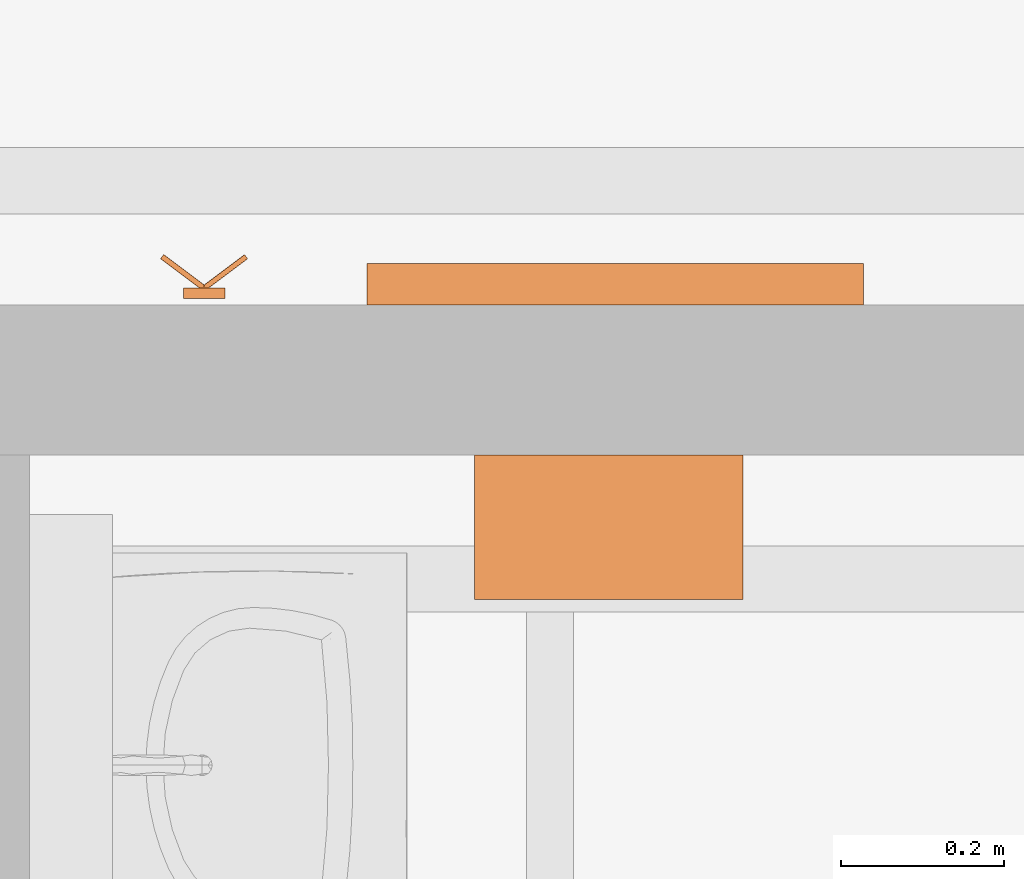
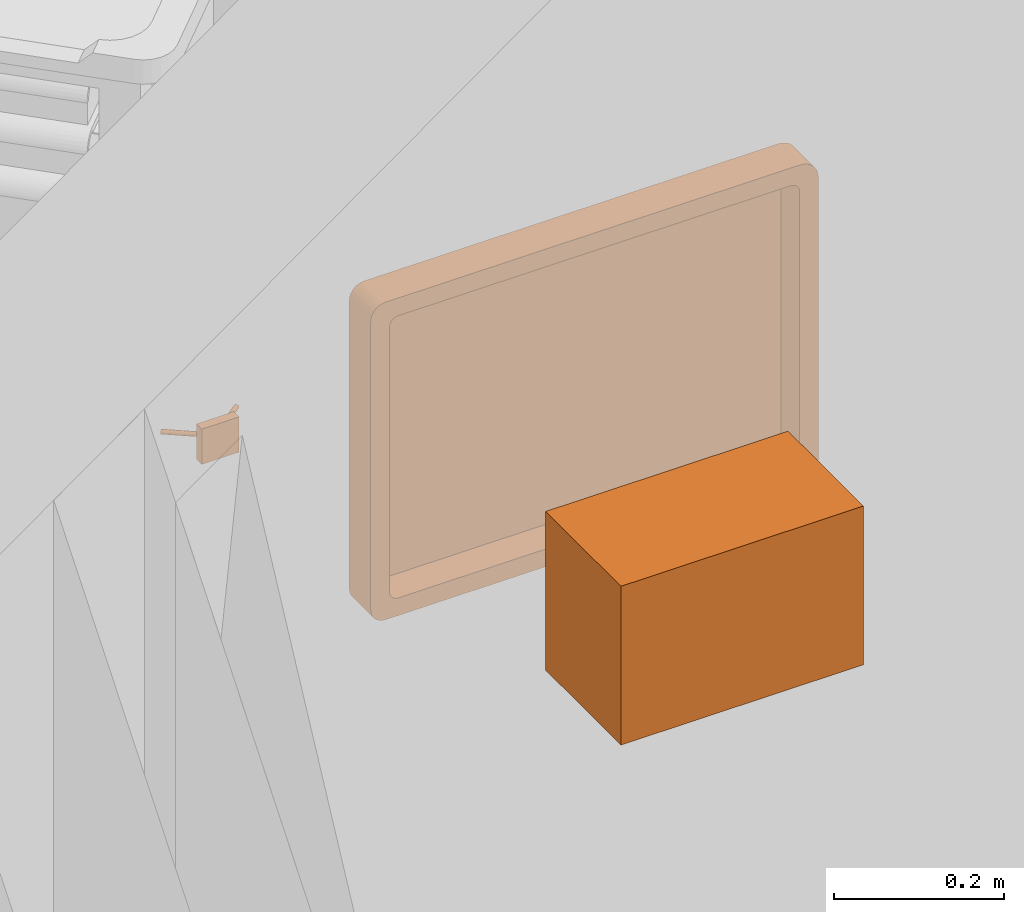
# One storey, part 72 of 142: 3 proxies.
"""IFC2X3 building model written with IfcOpenShell, lengths in feet."""

from ifc_helpers import new_model, entity, si_unit, converted_unit, derived_unit, direction, frame, frame_2d, origin, origin_2d_with_axis, place, context, subcontext, project, spatial, polyline, circle_curve, parameter, trimmed, segment, composite_curve, rectangle, circle, outline, extrude, source, transform, mapped, type_object, type_shapes, element, save


model = new_model("IFC2X3")

# Units and contexts
model_context = context("Model", 3, precision=0.0001, world=origin(), true_north=direction((6.12303176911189e-17, 1.0)))
body_context = subcontext(model_context, "Body", "Model", "MODEL_VIEW")
ifc_project = project(units=[converted_unit("LENGTHUNIT", "FOOT", entity("IfcRatioMeasure", 0.3048), si_unit("LENGTHUNIT", "METRE"), dimensions=[1, 0, 0, 0, 0, 0, 0]), converted_unit("AREAUNIT", "SQUARE FOOT", entity("IfcRatioMeasure", 0.09290304), si_unit("AREAUNIT", "SQUARE_METRE"), dimensions=[2, 0, 0, 0, 0, 0, 0]), converted_unit("VOLUMEUNIT", "CUBIC FOOT", entity("IfcRatioMeasure", 0.028316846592), si_unit("VOLUMEUNIT", "CUBIC_METRE"), dimensions=[3, 0, 0, 0, 0, 0, 0]), converted_unit("PLANEANGLEUNIT", "DEGREE", entity("IfcRatioMeasure", 0.0174532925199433), si_unit("PLANEANGLEUNIT", "RADIAN"), dimensions=[0, 0, 0, 0, 0, 0, 0]), si_unit("MASSUNIT", "GRAM", prefix="KILO"), derived_unit("MASSDENSITYUNIT", [(si_unit("MASSUNIT", "GRAM", prefix="KILO"), 1), (si_unit("LENGTHUNIT", "METRE"), -3)]), si_unit("TIMEUNIT", "SECOND"), si_unit("FREQUENCYUNIT", "HERTZ"), si_unit("THERMODYNAMICTEMPERATUREUNIT", "DEGREE_CELSIUS"), derived_unit("THERMALTRANSMITTANCEUNIT", [(si_unit("MASSUNIT", "GRAM", prefix="KILO"), 1), (si_unit("THERMODYNAMICTEMPERATUREUNIT", "KELVIN"), -1), (si_unit("TIMEUNIT", "SECOND"), -3)]), derived_unit("VOLUMETRICFLOWRATEUNIT", [(si_unit("LENGTHUNIT", "METRE"), 3), (si_unit("TIMEUNIT", "SECOND"), -1)]), si_unit("ELECTRICCURRENTUNIT", "AMPERE"), si_unit("ELECTRICVOLTAGEUNIT", "VOLT"), si_unit("POWERUNIT", "WATT"), si_unit("FORCEUNIT", "NEWTON"), si_unit("ILLUMINANCEUNIT", "LUX"), si_unit("LUMINOUSFLUXUNIT", "LUMEN"), si_unit("LUMINOUSINTENSITYUNIT", "CANDELA"), derived_unit("USERDEFINED", [(si_unit("MASSUNIT", "GRAM", prefix="KILO"), -1), (si_unit("LENGTHUNIT", "METRE"), -2), (si_unit("TIMEUNIT", "SECOND"), 3), (si_unit("LUMINOUSFLUXUNIT", "LUMEN"), 1)]), derived_unit("LINEARVELOCITYUNIT", [(si_unit("LENGTHUNIT", "METRE"), 1), (si_unit("TIMEUNIT", "SECOND"), -1)]), si_unit("PRESSUREUNIT", "PASCAL"), derived_unit("USERDEFINED", [(si_unit("LENGTHUNIT", "METRE"), -2), (si_unit("MASSUNIT", "GRAM", prefix="KILO"), 1), (si_unit("TIMEUNIT", "SECOND"), -2)])], contexts=[model_context])

# Site, building, storey, space
site_placement = place(None, origin())
site = spatial("IfcSite", under=ifc_project, at=site_placement, Name="Default", CompositionType="ELEMENT")
building_placement = place(site_placement, origin())
building = spatial("IfcBuilding", under=site, at=building_placement, Name="OUTPATIENT / PACT CLINIC (Ch. 265)", CompositionType="ELEMENT")
storey_placement = place(building_placement, origin())
storey = spatial("IfcBuildingStorey", under=building, at=storey_placement, Name="LEVEL 1", CompositionType="ELEMENT", Elevation=0.0)
space_1_placement = place(storey_placement, origin())
space_1 = spatial("IfcSpace", under=storey, at=space_1_placement, Name="TNPG1", CompositionType="ELEMENT", InteriorOrExteriorSpace="INTERNAL")

# Proxy
building_element_proxy_type_1 = type_object("IfcBuildingElementProxyType", Name="A5080 - Dispenser, Paper Towel", PredefinedType="NOTDEFINED")
shared_shape_1 = source(origin(), body_context, "Body", "SweptSolid", [
    extrude(rectangle(XDim=1.08333333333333, YDim=0.58333333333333, at=frame_2d((0.0, 9.99200722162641e-16), x_axis=(1.0, 0.0))), frame((0.0, 0.291666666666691, 0.0), z_axis=(0.0, 0.0, 1.0), x_axis=(-1.0, 0.0, 0.0)), (0.0, 0.0, 1.0), 0.75),
])
type_shapes(building_element_proxy_type_1, [shared_shape_1])
proxy_1_placement = place(space_1_placement, frame((394.296783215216, -946.649703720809, 4.0), z_axis=(0.0, 0.0, 1.0), x_axis=(-1.0, 0.0, 0.0)))
element("IfcBuildingElementProxy", 1, at=proxy_1_placement, inside=space_1, type_object=building_element_proxy_type_1, Name="A5080 - Dispenser, Paper Towel:A5080 - Dispenser, Paper Towel", ObjectType="A5080 - Dispenser, Paper Towel", context=body_context, shape_type="MappedRepresentation", body=[
    mapped(shared_shape_1, transform((0.0, 0.0, 0.0), scale=1.0)),
])

# Space
space_2_placement = place(storey_placement, origin())
space_2 = spatial("IfcSpace", under=storey, at=space_2_placement, Name="TRPR1", CompositionType="ELEMENT", InteriorOrExteriorSpace="INTERNAL")

# Proxies
building_element_proxy_type_2 = type_object("IfcBuildingElementProxyType", Name="A5145 - Hook, Garment, Double", PredefinedType="NOTDEFINED")
shared_shape_2 = source(origin(), body_context, "Body", "SweptSolid", [
    extrude(circle(Radius=0.0105952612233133, at=frame_2d((-1.64551454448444e-31, -4.16333634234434e-17), x_axis=(1.0, 0.0))), frame((-0.169086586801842, -0.168481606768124, 0.0833333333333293), z_axis=(0.799999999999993, 0.60000000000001, 0.0), x_axis=(0.60000000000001, -0.799999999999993, 0.0)), (0.0, 0.0, 1.0), 0.211358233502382),
    extrude(circle(Radius=0.0105952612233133, at=frame_2d((5.2041704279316e-19, 2.77555756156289e-17), x_axis=(1.0, 0.0))), frame((0.0, -0.0416666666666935, 0.083333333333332), z_axis=(0.799999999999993, -0.60000000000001, 0.0), x_axis=(-0.60000000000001, -0.799999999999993, 0.0)), (0.0, 0.0, 1.0), 0.211358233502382),
    extrude(rectangle(XDim=0.0416666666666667, YDim=0.166666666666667, at=origin_2d_with_axis()), frame((0.0, -0.0208333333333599, 0.0), z_axis=(0.0, 0.0, 1.0), x_axis=(0.0, 1.0, 0.0)), (0.0, 0.0, 1.0), 0.166666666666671),
])
type_shapes(building_element_proxy_type_2, [shared_shape_2])
proxy_2_placement = place(space_2_placement, frame((392.666434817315, -946.019476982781, 5.0), z_axis=(0.0, 0.0, 1.0), x_axis=(-1.0, 0.0, 0.0)))
element("IfcBuildingElementProxy", 2, at=proxy_2_placement, inside=space_2, type_object=building_element_proxy_type_2, Name="A5145 - Hook, Garment, Double:A5145 - Hook, Garment, Double", ObjectType="A5145 - Hook, Garment, Double", context=body_context, shape_type="MappedRepresentation", body=[
    mapped(shared_shape_2, transform((0.0, 0.0, 0.0), scale=1.0)),
])
building_element_proxy_type_3 = type_object("IfcBuildingElementProxyType", Name="F3010 - Board, Bulletin, 18 x 24x 4", PredefinedType="NOTDEFINED")
shared_shape_3 = source(origin(), body_context, "Body", "SweptSolid", [
    extrude(outline(composite_curve([segment(trimmed(circle_curve(frame_2d((-0.875000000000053, -0.625000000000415), x_axis=(1.0, 0.0)), 0.0416666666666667), [parameter(180.0)], [parameter(270.0)], True, "PARAMETER"), True, "CONTINUOUS"), segment(polyline([(-0.875000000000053, -0.666666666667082), (0.875000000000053, -0.666666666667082)]), True, "CONTINUOUS"), segment(trimmed(circle_curve(frame_2d((0.875000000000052, -0.625000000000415), x_axis=(1.0, 0.0)), 0.0416666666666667), [parameter(270.0)], [parameter(3.05333249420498e-13)], True, "PARAMETER"), True, "CONTINUOUS"), segment(polyline([(0.916666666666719, -0.625000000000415), (0.916666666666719, 0.625000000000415)]), True, "CONTINUOUS"), segment(trimmed(circle_curve(frame_2d((0.875000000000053, 0.625000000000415), x_axis=(1.0, 0.0)), 0.0416666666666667), [parameter(2.54444374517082e-13)], [parameter(90.0000000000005)], True, "PARAMETER"), True, "CONTINUOUS"), segment(polyline([(0.875000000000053, 0.666666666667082), (-0.875000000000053, 0.666666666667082)]), True, "CONTINUOUS"), segment(trimmed(circle_curve(frame_2d((-0.875000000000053, 0.625000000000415), x_axis=(1.0, 0.0)), 0.0416666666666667), [parameter(90.0000000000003)], [parameter(180.0)], True, "PARAMETER"), True, "CONTINUOUS"), segment(polyline([(-0.916666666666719, 0.625000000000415), (-0.916666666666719, -0.625000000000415)]), True, "CONTINUOUS")], self_intersect=False)), frame((0.0, -0.021972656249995, 0.750000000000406), z_axis=(0.0, 1.0, 0.0), x_axis=(-1.0, 0.0, 0.0)), (0.0, 0.0, 1.0), 0.02197265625),
    extrude(outline(composite_curve([segment(trimmed(circle_curve(frame_2d((0.920724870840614, -0.666666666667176), x_axis=(1.0, 0.0)), 0.0833333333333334), [parameter(270.0)], [parameter(3.56222124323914e-13)], True, "PARAMETER"), True, "CONTINUOUS"), segment(polyline([(1.00405820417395, -0.666666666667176), (1.00405820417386, 0.666666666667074)]), True, "CONTINUOUS"), segment(trimmed(circle_curve(frame_2d((0.920724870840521, 0.666666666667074), x_axis=(1.0, 0.0)), 0.0833333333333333), [parameter(360.0)], [parameter(90.0000000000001)], True, "PARAMETER"), True, "CONTINUOUS"), segment(polyline([(0.920724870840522, 0.750000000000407), (-0.928841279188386, 0.75000000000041)]), True, "CONTINUOUS"), segment(trimmed(circle_curve(frame_2d((-0.928841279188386, 0.682899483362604), x_axis=(1.0, 0.0)), 0.0671005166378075), [parameter(90.0)], [parameter(180.0)], True, "PARAMETER"), True, "CONTINUOUS"), segment(polyline([(-0.995941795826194, 0.682899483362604), (-0.995941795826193, -0.682899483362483)]), True, "CONTINUOUS"), segment(trimmed(circle_curve(frame_2d((-0.928841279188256, -0.682899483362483), x_axis=(1.0, 0.0)), 0.0671005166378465), [parameter(180.0)], [parameter(270.0)], True, "PARAMETER"), True, "CONTINUOUS"), segment(polyline([(-0.928841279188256, -0.750000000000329), (0.920724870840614, -0.75000000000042)]), True, "CONTINUOUS")], self_intersect=False), holes=[composite_curve([segment(polyline([(-0.91260846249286, -0.625000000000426), (-0.91260846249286, 0.625000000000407)]), True, "CONTINUOUS"), segment(trimmed(circle_curve(frame_2d((-0.870941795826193, 0.625000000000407), x_axis=(1.0, 0.0)), 0.0416666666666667), [parameter(89.9999999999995)], [parameter(180.0)], True, "PARAMETER"), False, "CONTINUOUS"), segment(polyline([(-0.870941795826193, 0.666666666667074), (0.879058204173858, 0.666666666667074)]), True, "CONTINUOUS"), segment(trimmed(circle_curve(frame_2d((0.879058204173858, 0.625000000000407), x_axis=(1.0, 0.0)), 0.0416666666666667), [parameter(3.56222124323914e-13)], [parameter(90.0000000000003)], True, "PARAMETER"), False, "CONTINUOUS"), segment(polyline([(0.920724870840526, 0.625000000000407), (0.92072487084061, -0.625000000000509)]), True, "CONTINUOUS"), segment(trimmed(circle_curve(frame_2d((0.879058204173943, -0.625000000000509), x_axis=(1.0, 0.0)), 0.0416666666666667), [parameter(270.0)], [parameter(3.56222124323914e-13)], True, "PARAMETER"), False, "CONTINUOUS"), segment(polyline([(0.879058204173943, -0.666666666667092), (-0.870941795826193, -0.666666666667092)]), True, "CONTINUOUS"), segment(trimmed(circle_curve(frame_2d((-0.870941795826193, -0.625000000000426), x_axis=(1.0, 0.0)), 0.0416666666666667), [parameter(180.0)], [parameter(270.0)], True, "PARAMETER"), False, "CONTINUOUS")], self_intersect=False)]), frame((-0.00405820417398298, -0.166666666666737, 0.750000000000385), z_axis=(0.0, 1.0, 0.0), x_axis=(1.0, 0.0, 0.0)), (0.0, 0.0, 1.0), 0.166666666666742),
])
type_shapes(building_element_proxy_type_3, [shared_shape_3])
proxy_3_placement = place(space_2_placement, frame((394.322684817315, -945.878851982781, 4.0)))
element("IfcBuildingElementProxy", 3, at=proxy_3_placement, inside=space_2, type_object=building_element_proxy_type_3, Name="F3010 - Board, Bulletin:F3010 - Board, Bulletin, 18 x 24x 4", ObjectType="F3010 - Board, Bulletin, 18 x 24x 4", context=body_context, shape_type="MappedRepresentation", body=[
    mapped(shared_shape_3, transform((0.0, 0.0, 0.0), scale=1.0)),
])

save(model, "model.ifc")
